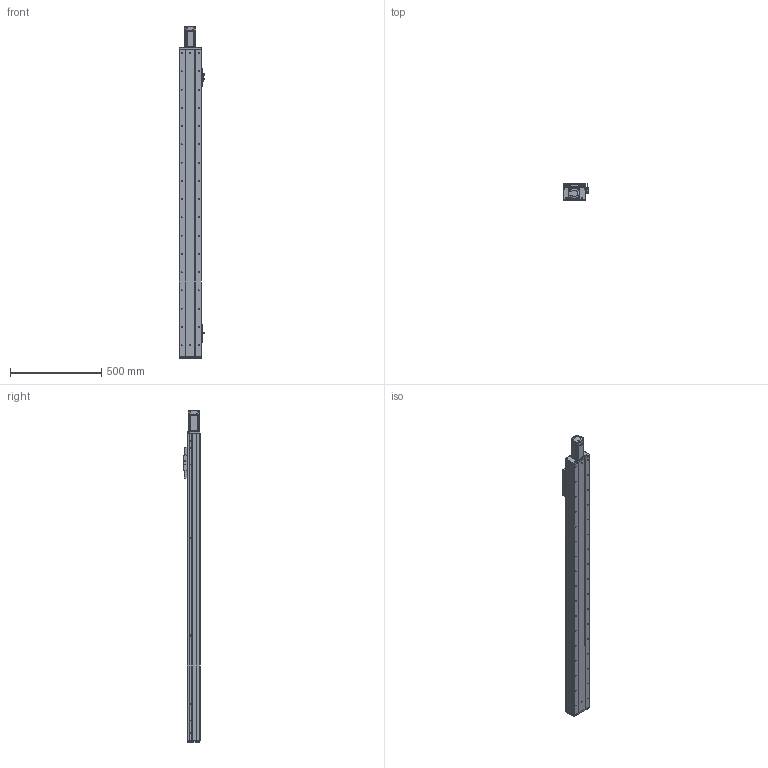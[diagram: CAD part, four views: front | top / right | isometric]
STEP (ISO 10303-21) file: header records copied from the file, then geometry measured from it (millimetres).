
FILE_DESCRIPTION (( 'STEP AP203' ), '1' );
FILE_NAME ('RY120F-L2010-1000-MK.SLDASM_1400.step', '2021-03-02T06:06:21', ( '盈信电脑' ), ( '东莞市道滘镇水果街19号' ), 'SwSTEP 2.0', 'SolidWorks 2012', '' );
FILE_SCHEMA (( 'CONFIG_CONTROL_DESIGN' ));
Length unit declared in the file: millimetre
Products named in the file (23): RY120F-L2010-1000-MK.SLDASM_1400; RY120F-蚥薯蝶幗謫郪磁; 粣杶; MF95ZZ; 蚥薯蝶幗謫; RY120F-钢带滚轮轴(优力胶); FY120F詩湍揤踡輸; RY80俋离覜茼え; 滅袉蝶18-17; 滅袉蝶18-24; RY120F綴裔啣(臏璃ㄘ; 覜茼ん672; 672嫖萇羲壽假蚾釱; RY120F眻蟀ヶ裔啣; 侂狟400W侜督萇儂; RY120F不锈钢防尘盖(优力胶）; RY120F-臏賑輸 20蹟譫; RY120F-铝滑块上座（优力胶）; 15; 絳寢賑輸EGH15; RY120F滅鳥詩湍-1000-MK_1400; RY120F-1000-倰第裔啣_1400; RY120F-1000-倰第菁釱_1400
Assembly tree (34 placements, depth 3):
  RY120F-L2010-1000-MK.SLDASM_1400
    RY120F-1000-倰第菁釱_1400
    RY120F-1000-倰第裔啣_1400  x2
    RY120F滅鳥詩湍-1000-MK_1400
    RY120F-臏賑輸 20蹟譫
    絳寢賑輸EGH15  x2
    RY120F-铝滑块上座（优力胶）
    侂狟400W侜督萇儂
      15
    RY120F眻蟀ヶ裔啣
    RY120F不锈钢防尘盖(优力胶）
    滅袉蝶18-24
    RY120F綴裔啣(臏璃ㄘ
    覜茼ん672  x3
    672嫖萇羲壽假蚾釱  x2
    RY80俋离覜茼え
    FY120F詩湍揤踡輸  x2
    滅袉蝶18-17  x2
    RY120F-蚥薯蝶幗謫郪磁
      RY120F-钢带滚轮轴(优力胶)
      蚥薯蝶幗謫  x2
      MF95ZZ  x4
      粣杶  x2
Bounding box: 140.35 x 89 x 1818.5 mm (x, y, z)
Volume: 5233249.6 mm3; surface area: 1921924.2 mm2
Topology: 32 solids, 32 shells, 2357 faces, 6265 edges, 3999 vertices
Faces by surface type: cylinder 1112, plane 988, cone 239, bspline 18
Entity records: 63132 total; most frequent: CARTESIAN_POINT 11378, DIRECTION 10655, ORIENTED_EDGE 9874, EDGE_CURVE 4937, AXIS2_PLACEMENT_3D 3892, VERTEX_POINT 3231, VECTOR 2871, LINE 2871
